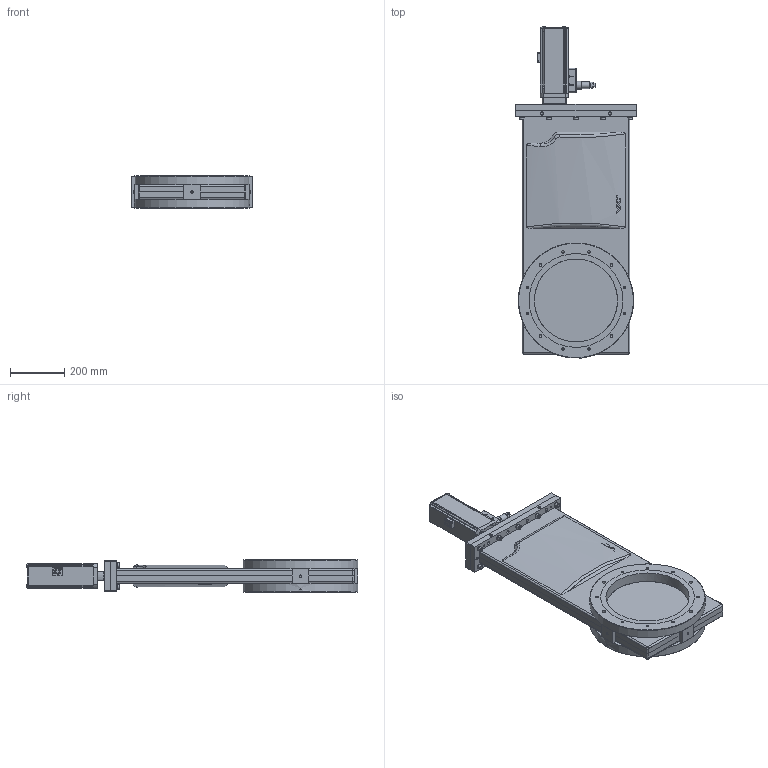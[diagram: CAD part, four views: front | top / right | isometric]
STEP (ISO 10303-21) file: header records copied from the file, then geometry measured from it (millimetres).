
FILE_DESCRIPTION(/* description */ (''),/* implementation_level */ '2;1');
FILE_NAME(/* name */ '1128893765_203.stp',/* time_stamp */ '2021-11-17T07:16:41+01:00',/* author */ (''),/* organization */ (''),/* preprocessor_version */ 'ST-DEVELOPER v16.7',/* originating_system */ 'SIEMENS PLM Software NX 1915',/* authorisation */ '');
FILE_SCHEMA (('AP203_CONFIGURATION_CONTROLLED_3D_DESIGN_OF_MECHANICAL_PARTS_AND_ASSEMBLIES_MIM_LF { 1 0 10303 403 2 1 2}'));
Length unit declared in the file: millimetre
Products named in the file (36): 457464_30882ID; 457464_30883ID; 386293_30880ID; 65664-01.2_30781ID; 235684.1_30876ID; 235684.1_30877ID; 86831.2; n-6024-526; N-7100-014_2.1; 94828-01.1; N-7100-012_3.1; n-7100-007.2; n-6197-034.1; 395614; 94220-01.1; n-6013-445.1; 85949-01.1; 395783; N-6024-571.1; 87172-01.1; n-6024-548.1; n-8504-002; 507356; 70973-01.1; 464926; 65313-01.1; 894240; 384437; n-6134-410; 218206.1; 386313_MODEL; 496799_MODEL; 94827-r1.1; 94226-01.2; 553954; 899135
Assembly tree (67 placements, depth 4):
  899135
    218206.1  x10
    n-6134-410  x10
    384437  x2
    894240
    65313-01.1
    464926
    70973-01.1
    507356
    n-8504-002
    n-6024-548.1  x4
    87172-01.1  x4
    N-6024-571.1  x4
    553954
      94220-01.1
      395614
      n-6197-034.1
      n-7100-007.2  x2
      94226-01.2
        65664-01.2_30781ID
    395783
    85949-01.1
    n-6013-445.1
    94827-r1.1
      N-7100-012_3.1
      94828-01.1
      N-7100-014_2.1
      n-6024-526  x2
    496799_MODEL
      386313_MODEL
        386293_30880ID
        457464_30883ID
        457464_30882ID
      86831.2  x3
      235684.1_30877ID
      235684.1_30876ID
Bounding box: 448 x 1222.36 x 120 mm (x, y, z)
Volume: 13164282.5 mm3; surface area: 2579249.6 mm2
Topology: 83 solids, 83 shells, 2068 faces, 5156 edges, 3402 vertices
Faces by surface type: plane 1105, cylinder 574, cone 124, torus 118, extrusion 82, bspline 47, sphere 18
Full cylindrical faces by diameter (mm): 0.4 x1, 0.725 x1, 1.5 x6, 1.66 x7, 2 x3, 2.125 x1, 2.5 x10, 2.65 x1, 3 x3, 3.3 x6, 4 x5, 4.05 x4, 4.2 x5, 4.35 x2, 4.4 x4, 4.45 x4, 4.5 x2, 4.625 x2, 5 x6, 5.2 x4, 5.8 x1, 5.9 x5, 5.99 x2, 6 x11, 6.035 x2, 6.25 x2, 6.6 x4, 6.85 x4, 7.05 x3, 7.5 x5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
Entity records: 61625 total; most frequent: CARTESIAN_POINT 19373, ORIENTED_EDGE 7470, DIRECTION 7368, EDGE_CURVE 3735, AXIS2_PLACEMENT_3D 2744, VERTEX_POINT 2693, EDGE_LOOP 2295, VECTOR 1880
